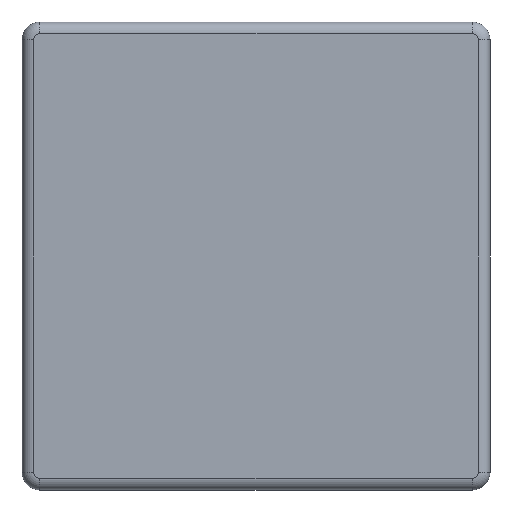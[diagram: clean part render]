
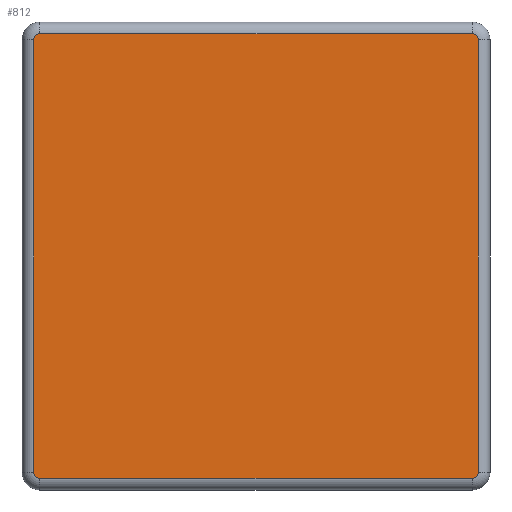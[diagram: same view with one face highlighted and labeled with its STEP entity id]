
A CAD part, front view. The second image highlights one B-rep face of the part: STEP entity #812.
In plain terms, the highlighted planar face has unit normal (0, -1, 0).
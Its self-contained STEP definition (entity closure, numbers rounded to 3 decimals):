
#12 = CARTESIAN_POINT ( 'NONE',  ( 49.448, 0., 24.812 ) ) ;
#138 = VERTEX_POINT ( 'NONE', #2396 ) ;
#141 = EDGE_CURVE ( 'NONE', #2914, #1032, #2154, .T. ) ;
#168 = DIRECTION ( 'NONE',  ( -1., 0., 0. ) ) ;
#235 = CARTESIAN_POINT ( 'NONE',  ( 48.448, 0., -49.188 ) ) ;
#265 = CARTESIAN_POINT ( 'NONE',  ( -26.552, 0., 0. ) ) ;
#307 = DIRECTION ( 'NONE',  ( 0., -1., 0. ) ) ;
#353 = AXIS2_PLACEMENT_3D ( 'NONE', #2425, #727, #2703 ) ;
#403 = CARTESIAN_POINT ( 'NONE',  ( 0., 0., -50.188 ) ) ;
#486 = EDGE_CURVE ( 'NONE', #804, #3144, #3164, .T. ) ;
#508 = DIRECTION ( 'NONE',  ( 0., 0., 1. ) ) ;
#617 = ORIENTED_EDGE ( 'NONE', *, *, #1521, .T. ) ;
#655 = LINE ( 'NONE', #265, #2902 ) ;
#698 = LINE ( 'NONE', #403, #2861 ) ;
#727 = DIRECTION ( 'NONE',  ( 0., -1., 0. ) ) ;
#788 = VERTEX_POINT ( 'NONE', #3106 ) ;
#794 = EDGE_CURVE ( 'NONE', #3144, #2914, #3604, .T. ) ;
#804 = VERTEX_POINT ( 'NONE', #2565 ) ;
#812 = ADVANCED_FACE ( 'NONE', ( #2761 ), #1439, .F. ) ;
#867 = CARTESIAN_POINT ( 'NONE',  ( 49.448, 0., 0. ) ) ;
#871 = ORIENTED_EDGE ( 'NONE', *, *, #486, .T. ) ;
#981 = EDGE_LOOP ( 'NONE', ( #2895, #2696, #617, #1276, #2349, #871, #1584, #3335 ) ) ;
#1032 = VERTEX_POINT ( 'NONE', #3361 ) ;
#1146 = EDGE_CURVE ( 'NONE', #2361, #804, #698, .T. ) ;
#1149 = EDGE_CURVE ( 'NONE', #788, #2361, #2114, .T. ) ;
#1259 = CARTESIAN_POINT ( 'NONE',  ( -25.552, 0., -49.188 ) ) ;
#1276 = ORIENTED_EDGE ( 'NONE', *, *, #1149, .T. ) ;
#1351 = VECTOR ( 'NONE', #2834, 1000. ) ;
#1439 = PLANE ( 'NONE',  #2055 ) ;
#1521 = EDGE_CURVE ( 'NONE', #1832, #788, #655, .T. ) ;
#1562 = DIRECTION ( 'NONE',  ( 0., 0., 1. ) ) ;
#1584 = ORIENTED_EDGE ( 'NONE', *, *, #794, .T. ) ;
#1737 = DIRECTION ( 'NONE',  ( 0., 0., 1. ) ) ;
#1832 = VERTEX_POINT ( 'NONE', #1853 ) ;
#1853 = CARTESIAN_POINT ( 'NONE',  ( -26.552, 0., 24.812 ) ) ;
#1870 = CARTESIAN_POINT ( 'NONE',  ( 0., 0., 25.812 ) ) ;
#2013 = CARTESIAN_POINT ( 'NONE',  ( -25.552, 0., 24.812 ) ) ;
#2055 = AXIS2_PLACEMENT_3D ( 'NONE', #3119, #3402, #1737 ) ;
#2107 = DIRECTION ( 'NONE',  ( 1., 0., 0. ) ) ;
#2114 = CIRCLE ( 'NONE', #3115, 1. ) ;
#2154 = CIRCLE ( 'NONE', #353, 1. ) ;
#2167 = EDGE_CURVE ( 'NONE', #138, #1832, #2306, .T. ) ;
#2215 = DIRECTION ( 'NONE',  ( 0., -1., 0. ) ) ;
#2297 = DIRECTION ( 'NONE',  ( 0., 0., 1. ) ) ;
#2306 = CIRCLE ( 'NONE', #2473, 1. ) ;
#2349 = ORIENTED_EDGE ( 'NONE', *, *, #1146, .T. ) ;
#2361 = VERTEX_POINT ( 'NONE', #2868 ) ;
#2396 = CARTESIAN_POINT ( 'NONE',  ( -25.552, 0., 25.812 ) ) ;
#2425 = CARTESIAN_POINT ( 'NONE',  ( 48.448, 0., 24.812 ) ) ;
#2473 = AXIS2_PLACEMENT_3D ( 'NONE', #2013, #307, #2297 ) ;
#2533 = DIRECTION ( 'NONE',  ( 0., 0., -1. ) ) ;
#2565 = CARTESIAN_POINT ( 'NONE',  ( 48.448, 0., -50.188 ) ) ;
#2696 = ORIENTED_EDGE ( 'NONE', *, *, #2167, .T. ) ;
#2703 = DIRECTION ( 'NONE',  ( 0., 0., 1. ) ) ;
#2750 = AXIS2_PLACEMENT_3D ( 'NONE', #235, #2215, #508 ) ;
#2761 = FACE_OUTER_BOUND ( 'NONE', #981, .T. ) ;
#2834 = DIRECTION ( 'NONE',  ( 0., 0., 1. ) ) ;
#2861 = VECTOR ( 'NONE', #2107, 1000. ) ;
#2868 = CARTESIAN_POINT ( 'NONE',  ( -25.552, 0., -50.188 ) ) ;
#2887 = VECTOR ( 'NONE', #168, 1000. ) ;
#2895 = ORIENTED_EDGE ( 'NONE', *, *, #3524, .T. ) ;
#2902 = VECTOR ( 'NONE', #2533, 1000. ) ;
#2914 = VERTEX_POINT ( 'NONE', #12 ) ;
#3106 = CARTESIAN_POINT ( 'NONE',  ( -26.552, 0., -49.188 ) ) ;
#3115 = AXIS2_PLACEMENT_3D ( 'NONE', #1259, #3228, #1562 ) ;
#3119 = CARTESIAN_POINT ( 'NONE',  ( 0., 0., 0. ) ) ;
#3144 = VERTEX_POINT ( 'NONE', #3219 ) ;
#3164 = CIRCLE ( 'NONE', #2750, 1. ) ;
#3219 = CARTESIAN_POINT ( 'NONE',  ( 49.448, 0., -49.188 ) ) ;
#3228 = DIRECTION ( 'NONE',  ( 0., -1., 0. ) ) ;
#3335 = ORIENTED_EDGE ( 'NONE', *, *, #141, .T. ) ;
#3361 = CARTESIAN_POINT ( 'NONE',  ( 48.448, 0., 25.812 ) ) ;
#3402 = DIRECTION ( 'NONE',  ( 0., 1., 0. ) ) ;
#3524 = EDGE_CURVE ( 'NONE', #1032, #138, #3643, .T. ) ;
#3604 = LINE ( 'NONE', #867, #1351 ) ;
#3643 = LINE ( 'NONE', #1870, #2887 ) ;
